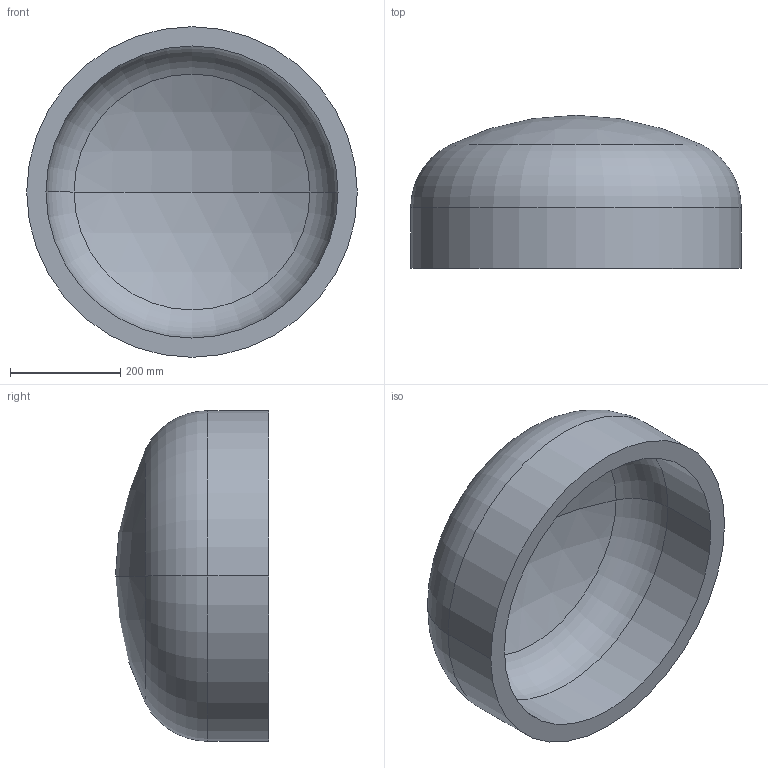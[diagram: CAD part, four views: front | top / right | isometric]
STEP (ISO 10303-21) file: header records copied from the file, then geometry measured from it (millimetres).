
FILE_DESCRIPTION (( 'STEP AP203' ), '1' );
FILE_NAME ('DIN 28013 Korbbogenform_-_Boden DIN 28013 - 600 x 110 - I - s=35.step', '2016-07-01T07:59:54', ( '' ), ( '' ), 'SwSTEP 2.0', 'SolidWorks 2013', '' );
FILE_SCHEMA (( 'CONFIG_CONTROL_DESIGN' ));
Length unit declared in the file: millimetre
Products named in the file (1): DIN 28013 Korbbogenform_-_Boden DIN 28013 - 600 x 110 - I - s=35
Bounding box: 600 x 277.7 x 600 mm (x, y, z)
Volume: 19544809 mm3; surface area: 1181536.7 mm2
Topology: 1 solids, 1 shells, 13 faces, 24 edges, 14 vertices
Faces by surface type: torus 4, cylinder 4, sphere 4, plane 1
Entity records: 407 total; most frequent: DIRECTION 72, CARTESIAN_POINT 52, ORIENTED_EDGE 48, AXIS2_PLACEMENT_3D 34, EDGE_CURVE 24, CIRCLE 20, VERTEX_POINT 14, EDGE_LOOP 14
